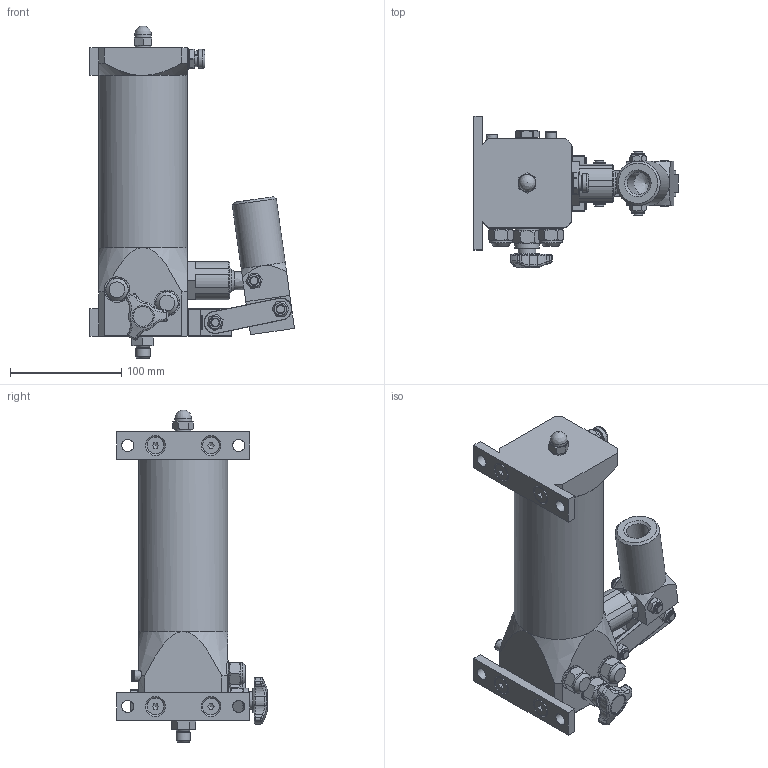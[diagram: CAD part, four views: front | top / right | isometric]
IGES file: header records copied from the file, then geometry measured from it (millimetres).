
Global section: file name: No Iges File Name specified; native system: Autodesk Inventor 2013; preprocessor: AutoDesk Inventor Iges Exporter R2013; author: christian.scardovi; date: 20240402.163230; units: millimetre
Bounding box: 184.53 x 135.78 x 299 mm (x, y, z)
Volume: 982752 mm3; surface area: 225644.7 mm2
Topology: 1 solids, 2 shells, 813 faces, 1957 edges, 1210 vertices
Faces by surface type: bspline 813
